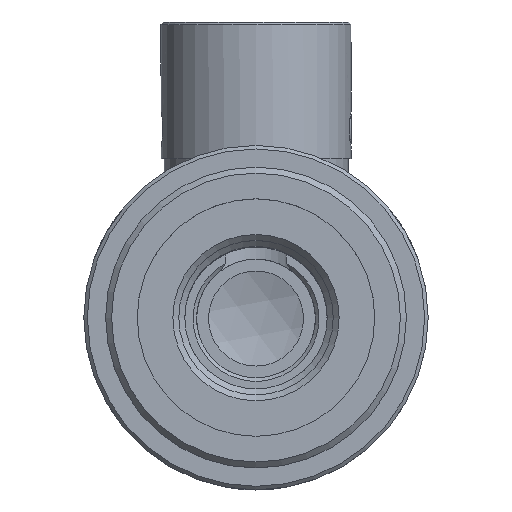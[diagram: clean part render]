
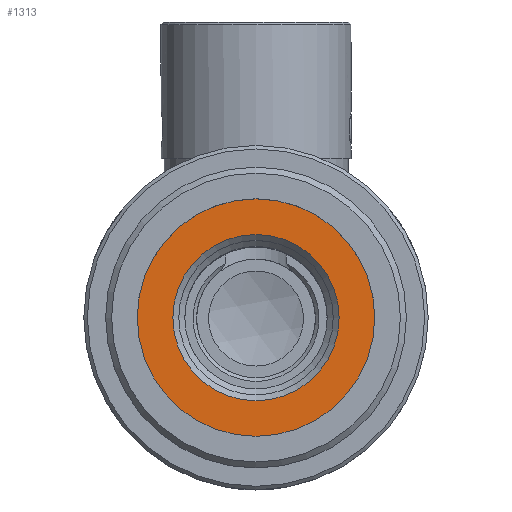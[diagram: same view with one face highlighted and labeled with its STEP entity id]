
A CAD part, top view. The second image highlights one B-rep face of the part: STEP entity #1313.
In plain terms, the highlighted planar face has unit normal (0, 0, 1).
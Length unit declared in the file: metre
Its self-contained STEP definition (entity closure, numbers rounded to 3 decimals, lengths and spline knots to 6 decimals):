
#1313=ADVANCED_FACE('1:54676',(#3313,#3314),#3315,.F.);
#2279=EDGE_CURVE('0:2111',#4660,#4660,#4661,.T.);
#2291=EDGE_CURVE('0:2120',#4678,#4678,#4679,.T.);
#3313=FACE_BOUND('',#5860,.T.);
#3314=FACE_OUTER_BOUND('',#5861,.T.);
#3315=PLANE('',#5862);
#4660=VERTEX_POINT('',#8354);
#4661=CIRCLE('',#8355,0.007);
#4678=VERTEX_POINT('',#8378);
#4679=CIRCLE('',#8379,0.01);
#5860=EDGE_LOOP('',(#10649));
#5861=EDGE_LOOP('',(#10650));
#5862=AXIS2_PLACEMENT_3D('',#10651,#10652,#10653);
#8354=CARTESIAN_POINT('',(0.005802,0.000149,0.054159));
#8355=AXIS2_PLACEMENT_3D('',#11886,#11887,#11888);
#8378=CARTESIAN_POINT('',(0.002802,0.000149,0.054159));
#8379=AXIS2_PLACEMENT_3D('',#11904,#11905,#11906);
#10649=ORIENTED_EDGE('',*,*,#2279,.F.);
#10650=ORIENTED_EDGE('',*,*,#2291,.T.);
#10651=CARTESIAN_POINT('',(0.012802,0.010149,0.054159));
#10652=DIRECTION('',(0.,0.0,-1.0));
#10653=DIRECTION('',(0.0,-1.0,0.0));
#11886=CARTESIAN_POINT('',(0.012802,0.000149,0.054159));
#11887=DIRECTION('',(0.,-0.0,1.0));
#11888=DIRECTION('',(-1.0,0.0,0.));
#11904=CARTESIAN_POINT('',(0.012802,0.000149,0.054159));
#11905=DIRECTION('',(0.,-0.0,1.0));
#11906=DIRECTION('',(-1.0,0.0,0.));
